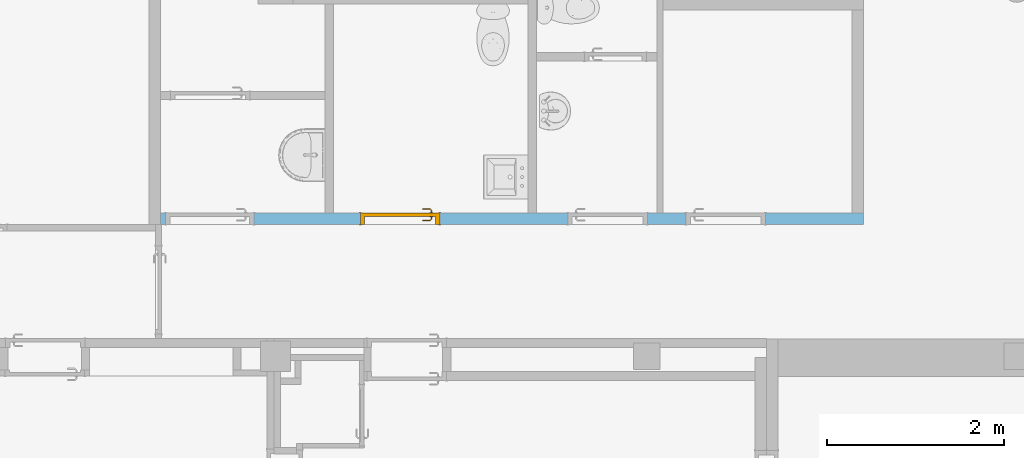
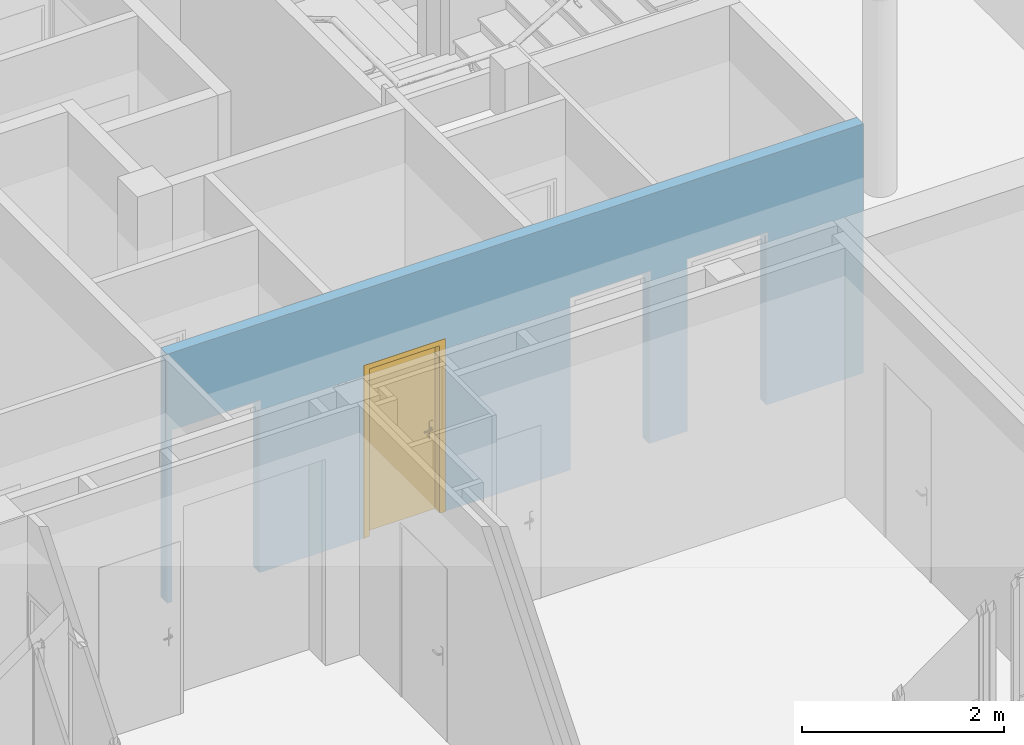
# One storey, part 64 of 97: 1 door, 4 openings, plus 1 element that does not belong to this part.
"""IFC4 building model written with IfcOpenShell, lengths in metres."""

from ifc_helpers import new_model, entity, si_unit, converted_unit, derived_unit, direction, frame, origin, place, context, subcontext, project, spatial, indexed_curve, outline, extrude, polygons, source, transform, mapped, material, material_list, layer, layer_set, constituent, constituent_set, type_object, type_shapes, element, fill, save


model = new_model("IFC4")

# Units and contexts
model_context = context("Model", 3, precision=1e-05, world=origin(), true_north=direction((6.12303176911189e-17, 1.0)))
body_context = subcontext(model_context, "Body", "Model", "MODEL_VIEW")
ifc_project = project(units=[si_unit("LENGTHUNIT", "METRE"), si_unit("AREAUNIT", "SQUARE_METRE"), si_unit("VOLUMEUNIT", "CUBIC_METRE"), converted_unit("PLANEANGLEUNIT", "DEGREE", entity("IfcRatioMeasure", 0.0174532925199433), si_unit("PLANEANGLEUNIT", "RADIAN"), dimensions=[0, 0, 0, 0, 0, 0, 0]), si_unit("MASSUNIT", "GRAM", prefix="KILO"), derived_unit("MASSDENSITYUNIT", [(si_unit("MASSUNIT", "GRAM", prefix="KILO"), 1), (si_unit("LENGTHUNIT", "METRE"), -3)]), derived_unit("MOMENTOFINERTIAUNIT", [(si_unit("LENGTHUNIT", "METRE"), 4)]), si_unit("TIMEUNIT", "SECOND"), si_unit("FREQUENCYUNIT", "HERTZ"), si_unit("THERMODYNAMICTEMPERATUREUNIT", "DEGREE_CELSIUS"), derived_unit("THERMALTRANSMITTANCEUNIT", [(si_unit("MASSUNIT", "GRAM", prefix="KILO"), 1), (si_unit("THERMODYNAMICTEMPERATUREUNIT", "KELVIN"), -1), (si_unit("TIMEUNIT", "SECOND"), -3)]), derived_unit("VOLUMETRICFLOWRATEUNIT", [(si_unit("LENGTHUNIT", "METRE"), 3), (si_unit("TIMEUNIT", "SECOND"), -1)]), si_unit("ELECTRICCURRENTUNIT", "AMPERE"), si_unit("ELECTRICVOLTAGEUNIT", "VOLT"), si_unit("POWERUNIT", "WATT"), si_unit("FORCEUNIT", "NEWTON", prefix="KILO"), si_unit("ILLUMINANCEUNIT", "LUX"), si_unit("LUMINOUSFLUXUNIT", "LUMEN"), si_unit("LUMINOUSINTENSITYUNIT", "CANDELA"), derived_unit("USERDEFINED", [(si_unit("MASSUNIT", "GRAM", prefix="KILO"), -1), (si_unit("LENGTHUNIT", "METRE"), -2), (si_unit("TIMEUNIT", "SECOND"), 3), (si_unit("LUMINOUSFLUXUNIT", "LUMEN"), 1)]), derived_unit("LINEARVELOCITYUNIT", [(si_unit("LENGTHUNIT", "METRE"), 1), (si_unit("TIMEUNIT", "SECOND"), -1)]), si_unit("PRESSUREUNIT", "PASCAL"), derived_unit("USERDEFINED", [(si_unit("LENGTHUNIT", "METRE"), -2), (si_unit("MASSUNIT", "GRAM", prefix="KILO"), 1), (si_unit("TIMEUNIT", "SECOND"), -2)]), derived_unit("LINEARFORCEUNIT", [(si_unit("MASSUNIT", "GRAM", prefix="KILO"), 1), (si_unit("LENGTHUNIT", "METRE"), 1), (si_unit("TIMEUNIT", "SECOND"), -2), (si_unit("LENGTHUNIT", "METRE"), -1)]), derived_unit("PLANARFORCEUNIT", [(si_unit("MASSUNIT", "GRAM", prefix="KILO"), 1), (si_unit("LENGTHUNIT", "METRE"), 1), (si_unit("TIMEUNIT", "SECOND"), -2), (si_unit("LENGTHUNIT", "METRE"), -2)])], contexts=[model_context])

# Site, building, storey
site_placement = place(None, origin())
site = spatial("IfcSite", under=ifc_project, at=site_placement, Name="Default", CompositionType="ELEMENT")
building_placement = place(site_placement, origin())
building = spatial("IfcBuilding", under=site, at=building_placement, Name="HOTEL CONSULAIRE BOULOGNE SUR MER", CompositionType="ELEMENT")
storey_placement = place(building_placement, frame((0.0, 0.0, 3.62152697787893)))
storey = spatial("IfcBuildingStorey", under=building, at=storey_placement, Name="Niveau 1", CompositionType="ELEMENT", Elevation=3.62152697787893)

# Wall, openings, door
ifc_material_1 = material(Name="Mur par défaut", Category="Divers")
ifc_layer = layer(ifc_material_1, 0.13, Name="Mur par défaut", Category="Divers")
ifc_layer_set = layer_set([ifc_layer], Name="Mur de base:Générique - Int. 130 mm")
wall_type = type_object("IfcWallType", Name="Mur de base:Générique - Int. 130 mm", PredefinedType="NOTDEFINED", material=ifc_layer_set)
wall_placement = place(storey_placement, frame((5.42705530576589, -22.4600276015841, 0.0), z_axis=(0.0, 0.0, 1.0), x_axis=(-1.0, 0.0, 0.0)))
wall = element("IfcWall", 1, at=wall_placement, inside=storey, type_object=wall_type, material=ifc_layer_set, Name="Mur de base:Générique - Int. 130 mm", ObjectType="Mur de base:Générique - Int. 130 mm", PredefinedType="NOTDEFINED", context=body_context, shape_type="Tessellation", body=[
    polygons([(7.95758399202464, -0.0650000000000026, 0.0), (7.90058399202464, -0.0649999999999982, 0.0), (7.90058399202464, 0.0649999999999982, 0.0), (7.94618813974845, 0.0649999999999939, 0.0), (7.95758399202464, 0.0649999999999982, 0.0), (6.90058399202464, -0.0650000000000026, 0.0), (6.09803531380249, -0.0650000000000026, 0.0), (5.99803531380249, -0.0650000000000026, 0.0), (5.69603531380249, -0.0650000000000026, 0.0), (5.69603531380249, 0.0649999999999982, 0.0), (6.90058399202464, 0.0649999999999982, 0.0), (4.79603531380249, -0.0650000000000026, 0.0), (3.79958399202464, -0.0650000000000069, 0.0), (3.69958399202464, -0.0650000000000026, 0.0), (3.34724170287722, -0.0649999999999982, 0.0), (3.34724170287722, 0.0649999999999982, 0.0), (4.79603531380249, 0.0650000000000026, 0.0), (2.44724170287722, -0.0650000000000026, 0.0), (2.33924170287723, -0.0650000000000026, 0.0), (2.26924170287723, -0.0650000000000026, 0.0), (2.00824170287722, -0.0649999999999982, 0.0), (2.00824170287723, 0.0649999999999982, 0.0), (2.44724170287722, 0.0649999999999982, 0.0), (7.95758399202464, -0.0649999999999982, 3.01021454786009), (6.09803531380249, -0.0650000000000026, 3.01021454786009), (5.99803531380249, -0.0650000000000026, 3.01021454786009), (3.79958399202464, -0.0650000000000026, 3.01021454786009), (3.69958399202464, -0.0649999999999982, 3.01021454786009), (2.33924170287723, -0.0650000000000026, 3.01021454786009), (2.26924170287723, -0.0649999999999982, 3.01021454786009), (0.130000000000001, -0.0650000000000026, 3.01021454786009), (-2.38412309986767e-16, -0.0650000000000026, 3.01021454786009), (-2.38412309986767e-16, -0.0650000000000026, 0.0), (0.129999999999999, -0.0650000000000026, 0.0), (1.10824170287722, -0.0650000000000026, 0.0), (1.10824170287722, -0.0650000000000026, 2.075), (2.00824170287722, -0.0649999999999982, 2.075), (2.44724170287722, -0.0650000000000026, 2.075), (3.34724170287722, -0.0649999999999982, 2.075), (4.79603531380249, -0.0649999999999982, 2.075), (5.69603531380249, -0.0650000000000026, 2.075), (6.90058399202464, -0.0650000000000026, 2.075), (7.90058399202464, -0.0649999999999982, 2.075), (-6.35807461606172e-16, 0.0649999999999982, 3.01021454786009), (7.94618813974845, 0.0650000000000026, 3.01021454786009), (7.95758399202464, 0.0650000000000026, 3.01021454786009), (7.90058399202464, 0.0650000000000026, 2.075), (6.90058399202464, 0.0649999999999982, 2.075), (5.69603531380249, 0.0649999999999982, 2.075), (4.79603531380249, 0.0650000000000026, 2.075), (3.34724170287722, 0.0650000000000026, 2.075), (2.44724170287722, 0.0649999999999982, 2.075), (2.00824170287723, 0.0650000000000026, 2.075), (1.10824170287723, 0.0649999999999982, 2.075), (1.10824170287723, 0.0649999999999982, 0.0), (-6.35807461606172e-16, 0.0649999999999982, 0.0)], [[[1, 2, 3, 4, 5]], [[7, 8, 9, 10, 11, 6]], [[13, 14, 15, 16, 17, 12]], [[20, 21, 22, 23, 18, 19]], [[39, 38, 52, 51]], [[37, 36, 54, 53]], [[50, 49, 41, 40]], [[48, 47, 43, 42]], [[34, 33, 56, 55, 35]], [[34, 35, 36, 37, 21, 20, 19, 18, 38, 39, 15, 14, 13, 12, 40, 41, 9, 8, 7, 6, 42, 43, 2, 1, 24, 25, 26, 27, 28, 29, 30, 31, 32, 33]], [[47, 48, 11, 10, 49, 50, 17, 16, 51, 52, 23, 22, 53, 54, 55, 56, 44, 45, 46, 5, 4, 3]], [[25, 24, 46, 45, 44, 32, 31, 30, 29, 28, 27, 26]], [[44, 56, 33, 32]], [[15, 39, 51, 16]], [[21, 37, 53, 22]], [[49, 10, 9, 41]], [[47, 3, 2, 43]], [[1, 5, 46, 24]], [[38, 18, 23, 52]], [[36, 35, 55, 54]], [[17, 50, 40, 12]], [[11, 48, 42, 6]]], closed=True),
])
opening_1_placement = place(wall_placement, frame((3.34724170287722, 0.0649999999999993, 0.0)))
element("IfcOpeningElement", 2, at=opening_1_placement, cuts=wall, Name="Int. Simple:PP (0.83m x 2.04m):1", ObjectType="Opening", PredefinedType="OPENING", context=body_context, shape_type="SweptSolid", body=[
    extrude(outline(indexed_curve([(0.0, 0.9), (0.0, 0.0), (2.075, 0.0), (2.075, 0.9), (0.0, 0.9)], self_intersect=False)), frame((0.0, 0.0, 0.0), z_axis=(0.0, -1.0, 0.0), x_axis=(0.0, 0.0, 1.0)), (0.0, 0.0, 1.0), 0.13),
])
opening_2_placement = place(wall_placement, frame((2.00824170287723, 0.0649999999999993, 0.0)))
element("IfcOpeningElement", 3, at=opening_2_placement, cuts=wall, Name="Int. Simple:PP (0.83m x 2.04m):1", ObjectType="Opening", PredefinedType="OPENING", context=body_context, shape_type="SweptSolid", body=[
    extrude(outline(indexed_curve([(0.0, 0.9), (0.0, 0.0), (2.075, 0.0), (2.075, 0.9), (0.0, 0.9)], self_intersect=False)), frame((0.0, 0.0, 0.0), z_axis=(0.0, -1.0, 0.0), x_axis=(0.0, 0.0, 1.0)), (0.0, 0.0, 1.0), 0.13),
])
opening_3_placement = place(wall_placement, frame((5.69603531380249, 0.0650000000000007, 0.0)))
opening_3 = element("IfcOpeningElement", 4, at=opening_3_placement, cuts=wall, Name="Int. Simple:PP (0.83m x 2.04m):1", ObjectType="Opening", PredefinedType="OPENING", context=body_context, shape_type="SweptSolid", body=[
    extrude(outline(indexed_curve([(0.0, 0.0), (2.075, 0.0), (2.075, 0.9), (0.0, 0.9), (0.0, 0.0)], self_intersect=False)), frame((0.0, 0.0, 0.0), z_axis=(0.0, -1.0, 0.0), x_axis=(0.0, 0.0, 1.0)), (0.0, 0.0, 1.0), 0.13),
])
opening_4_placement = place(wall_placement, frame((7.90058399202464, 0.0650000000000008, 0.0)))
element("IfcOpeningElement", 5, at=opening_4_placement, cuts=wall, Name="Int. Simple:PP0.93x2.04:1", ObjectType="Opening", PredefinedType="OPENING", context=body_context, shape_type="SweptSolid", body=[
    extrude(outline(indexed_curve([(0.0, 0.0), (2.075, 0.0), (2.075, 1.0), (0.0, 1.0), (0.0, 0.0)], self_intersect=False)), frame((0.0, 0.0, 0.0), z_axis=(0.0, -1.0, 0.0), x_axis=(0.0, 0.0, 1.0)), (0.0, 0.0, 1.0), 0.13),
])
ifc_material_2 = material(Name="Finition Peinture - Blanc satiné", Category="Peinture")
ifc_constituent_1 = constituent(ifc_material_2, Name="Finition Peinture - Blanc satiné", Category="Matériaux")
ifc_material_3 = material(Name="Bois - Panneau de porte", Category="Bois")
ifc_constituent_2 = constituent(ifc_material_3, Name="Bois - Panneau de porte", Category="Matériaux")
ifc_material_4 = material(Name="Bois - Cadre de porte", Category="Bois")
ifc_constituent_3 = constituent(ifc_material_4, Name="Bois - Cadre de porte", Category="Matériaux")
ifc_constituent_set = constituent_set(constituents=[ifc_constituent_1, ifc_constituent_2, ifc_constituent_3], Name="MaterialConstituentSet")
ifc_material_list = material_list([ifc_material_4, ifc_material_4, ifc_material_3, ifc_material_2])
door_type = type_object("IfcDoorType", Name="Int. Simple:PP (0.83m x 2.04m)", OperationType="NOTDEFINED", PredefinedType="DOOR", material=ifc_material_list)
shared_shape = source(origin(), body_context, "Body", "Tessellation", [
    polygons([(0.0750000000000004, -0.00500000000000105, 0.870000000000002), (0.0846472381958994, -0.00500000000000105, 0.866003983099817), (0.0950000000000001, -0.00500000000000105, 0.86464101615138), (0.105352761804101, -0.00500000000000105, 0.866003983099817), (0.115, -0.00500000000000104, 0.870000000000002), (0.114999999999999, -0.00500000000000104, 1.08), (0.1053527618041, -0.00500000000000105, 1.08399601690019), (0.094999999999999, -0.00500000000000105, 1.08535898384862), (0.0846472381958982, -0.00500000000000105, 1.08399601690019), (0.0749999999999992, -0.00500000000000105, 1.08), (0.0749999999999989, -1.05748743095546e-15, 0.870000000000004), (0.0749999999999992, -1.05748743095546e-15, 1.08), (0.0846472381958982, -1.05748743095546e-15, 1.08399601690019), (0.094999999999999, -1.04902753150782e-15, 1.08535898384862), (0.1053527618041, -1.04902753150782e-15, 1.08399601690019), (0.114999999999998, -1.04056763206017e-15, 1.08), (0.115, -1.04056763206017e-15, 0.870000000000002), (0.105352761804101, -1.04902753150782e-15, 0.866003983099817), (0.0950000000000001, -1.04902753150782e-15, 0.86464101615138), (0.0846472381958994, -1.05748743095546e-15, 0.866003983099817)], [[[4, 5, 6, 7, 8, 9, 10, 1, 2, 3]], [[15, 16, 17, 18, 19, 20, 11, 12, 13, 14]], [[11, 20, 2, 1]], [[2, 20, 19, 3]], [[19, 18, 4, 3]], [[18, 17, 5, 4]], [[6, 5, 17, 16]], [[16, 15, 7, 6]], [[7, 15, 14, 8]], [[14, 13, 9, 8]], [[13, 12, 10, 9]], [[1, 10, 12, 11]]], closed=True),
    polygons([(0.114999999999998, 0.0399999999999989, 1.08), (0.105352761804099, 0.0399999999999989, 1.08399601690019), (0.0949999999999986, 0.0399999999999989, 1.08535898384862), (0.084647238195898, 0.0399999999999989, 1.08399601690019), (0.0749999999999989, 0.0399999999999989, 1.08), (0.0750000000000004, 0.0399999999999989, 0.870000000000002), (0.0846472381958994, 0.0399999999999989, 0.866003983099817), (0.0950000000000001, 0.0399999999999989, 0.86464101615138), (0.105352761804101, 0.0399999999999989, 0.866003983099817), (0.115, 0.0399999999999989, 0.870000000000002), (0.114999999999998, 0.0449999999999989, 1.08), (0.115, 0.0449999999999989, 0.870000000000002), (0.105352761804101, 0.0449999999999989, 0.866003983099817), (0.0950000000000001, 0.0449999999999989, 0.86464101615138), (0.0846472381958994, 0.0449999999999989, 0.866003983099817), (0.0749999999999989, 0.0449999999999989, 0.870000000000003), (0.0749999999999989, 0.0449999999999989, 1.08), (0.084647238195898, 0.0449999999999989, 1.08399601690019), (0.0949999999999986, 0.0449999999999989, 1.08535898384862), (0.105352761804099, 0.0449999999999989, 1.08399601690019)], [[[9, 10, 1, 2, 3, 4, 5, 6, 7, 8]], [[20, 11, 12, 13, 14, 15, 16, 17, 18, 19]], [[11, 20, 2, 1]], [[2, 20, 19, 3]], [[19, 18, 4, 3]], [[18, 17, 5, 4]], [[6, 5, 17, 16]], [[16, 15, 7, 6]], [[7, 15, 14, 8]], [[14, 13, 9, 8]], [[13, 12, 10, 9]], [[1, 10, 12, 11]]], closed=True),
    polygons([(0.0889999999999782, -0.00500000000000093, 1.007), (0.0929747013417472, -0.00500000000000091, 1.00778044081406), (0.0970252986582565, -0.00500000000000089, 1.00778044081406), (0.101000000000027, -0.00500000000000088, 1.00699999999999), (0.101000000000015, -0.00500000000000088, 0.993000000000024), (0.0970252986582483, -0.00500000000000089, 0.992219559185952), (0.0929747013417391, -0.00500000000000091, 0.99221955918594), (0.0889999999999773, -0.00500000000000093, 0.992999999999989), (0.0889999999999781, -0.0326509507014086, 1.007), (0.092974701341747, -0.0310045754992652, 1.00778044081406), (0.0970252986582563, -0.0293267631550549, 1.00778044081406), (0.101000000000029, -0.0276803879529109, 1.007), (0.101000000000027, -0.0276803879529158, 0.993000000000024), (0.0970252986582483, -0.0293267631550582, 0.992219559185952), (0.0929747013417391, -0.0310045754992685, 0.99221955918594), (0.0889999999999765, -0.0326509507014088, 0.992999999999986), (0.107377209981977, -0.0510281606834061, 1.007), (0.10902358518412, -0.0470534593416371, 1.00778044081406), (0.110701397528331, -0.0430028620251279, 1.00778044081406), (0.112347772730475, -0.0390281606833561, 1.007), (0.112347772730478, -0.0390281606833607, 0.993000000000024), (0.110701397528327, -0.0430028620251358, 0.992219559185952), (0.109023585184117, -0.0470534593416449, 0.99221955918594), (0.107377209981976, -0.0510281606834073, 0.992999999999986), (0.195018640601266, -0.0510281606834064, 1.00699999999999), (0.195018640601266, -0.051028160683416, 0.992999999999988), (0.195018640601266, -0.0470534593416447, 0.99221955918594), (0.195018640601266, -0.0430028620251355, 0.992219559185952), (0.195018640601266, -0.0390281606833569, 0.993000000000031), (0.195018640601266, -0.0390281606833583, 1.007), (0.195018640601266, -0.0430028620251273, 1.00778044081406), (0.195018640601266, -0.0470534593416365, 1.00778044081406), (0.147307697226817, -0.0510281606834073, 1.007), (0.152860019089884, -0.045028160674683, 1.0078786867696), (0.15368320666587, -0.039028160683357, 1.007), (0.147307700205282, -0.0510281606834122, 0.992999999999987), (0.152860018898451, -0.0450281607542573, 0.992121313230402), (0.153683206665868, -0.0390281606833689, 0.993000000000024)], [[[2, 3, 4, 5, 6, 7, 8, 1]], [[21, 20, 35, 30, 29, 38]], [[9, 10, 2, 1]], [[10, 18, 19, 11, 3, 2]], [[11, 12, 4, 3]], [[5, 4, 12, 13]], [[26, 27, 28, 29, 30, 31, 32, 25]], [[13, 14, 6, 5]], [[14, 22, 23, 15, 7, 6]], [[15, 16, 8, 7]], [[1, 8, 16, 9]], [[17, 18, 10, 9]], [[19, 20, 12, 11]], [[13, 12, 20, 21]], [[21, 22, 14, 13]], [[23, 24, 16, 15]], [[9, 16, 24, 17]], [[33, 32, 34]], [[25, 32, 33]], [[18, 17, 33]], [[34, 35, 19]], [[20, 19, 35]], [[35, 31, 30]], [[32, 31, 34]], [[31, 35, 34]], [[18, 33, 34]], [[18, 34, 19]], [[38, 28, 37]], [[36, 37, 27]], [[21, 38, 22]], [[38, 29, 28]], [[26, 36, 27]], [[24, 23, 36]], [[36, 23, 37]], [[23, 22, 37]], [[22, 38, 37]], [[27, 37, 28]], [[17, 24, 36, 26, 25, 33]]], closed=True),
    polygons([(0.10100000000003, 0.0449999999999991, 0.993000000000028), (0.101000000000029, 0.0449999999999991, 1.007), (0.0970252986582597, 0.0449999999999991, 1.00778044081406), (0.0929747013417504, 0.0449999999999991, 1.00778044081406), (0.0889999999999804, 0.0449999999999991, 1.007), (0.0889999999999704, 0.0449999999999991, 0.992999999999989), (0.0929747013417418, 0.0449999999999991, 0.99221955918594), (0.0970252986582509, 0.0449999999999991, 0.992219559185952), (0.10100000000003, 0.067485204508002, 0.993000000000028), (0.10100000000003, 0.0674852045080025, 1.007), (0.0970252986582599, 0.0691315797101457, 1.00778044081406), (0.0929747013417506, 0.070809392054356, 1.00778044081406), (0.0889999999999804, 0.0724557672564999, 1.007), (0.0889999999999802, 0.072455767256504, 0.992999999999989), (0.0929747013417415, 0.0708093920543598, 0.99221955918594), (0.0970252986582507, 0.0691315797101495, 0.992219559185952), (0.112485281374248, 0.0789704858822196, 0.993000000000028), (0.112485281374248, 0.0789704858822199, 1.007), (0.110838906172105, 0.0829451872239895, 1.00778044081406), (0.109161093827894, 0.0869957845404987, 1.00778044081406), (0.107514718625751, 0.090970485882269, 1.007), (0.107514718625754, 0.090970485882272, 0.992999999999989), (0.109161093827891, 0.0869957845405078, 0.99221955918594), (0.110838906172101, 0.0829451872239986, 0.992219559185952), (0.195045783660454, 0.0789704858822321, 0.993000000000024), (0.195045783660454, 0.0829451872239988, 0.992219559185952), (0.195045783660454, 0.086995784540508, 0.99221955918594), (0.195045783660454, 0.0909704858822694, 0.992999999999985), (0.195045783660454, 0.0909704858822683, 1.007), (0.195045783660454, 0.0869957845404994, 1.00778044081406), (0.195045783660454, 0.0829451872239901, 1.00778044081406), (0.195045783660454, 0.0789704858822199, 1.007), (0.147445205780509, 0.0909704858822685, 1.007), (0.152942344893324, 0.0849704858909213, 1.0078786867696), (0.153765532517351, 0.0789704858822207, 1.007), (0.147445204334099, 0.0909704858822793, 0.992999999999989), (0.152942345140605, 0.0849704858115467, 0.992121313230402), (0.153765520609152, 0.0789704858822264, 0.993000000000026)], [[[4, 5, 6, 7, 8, 1, 2, 3]], [[18, 17, 38, 25, 32, 35]], [[2, 1, 9, 10]], [[25, 26, 27, 28, 29, 30, 31, 32]], [[10, 11, 3, 2]], [[11, 19, 20, 12, 4, 3]], [[12, 13, 5, 4]], [[6, 5, 13, 14]], [[14, 15, 7, 6]], [[15, 23, 24, 16, 8, 7]], [[16, 9, 1, 8]], [[10, 9, 17, 18]], [[18, 19, 11, 10]], [[20, 21, 13, 12]], [[14, 13, 21, 22]], [[22, 23, 15, 14]], [[24, 17, 9, 16]], [[35, 31, 34]], [[33, 34, 30]], [[18, 35, 19]], [[35, 32, 31]], [[29, 33, 30]], [[21, 20, 33]], [[33, 20, 34]], [[20, 19, 34]], [[19, 35, 34]], [[30, 34, 31]], [[21, 33, 29, 28, 36, 22]], [[36, 27, 37]], [[28, 27, 36]], [[23, 22, 36]], [[37, 38, 24]], [[17, 24, 38]], [[38, 26, 25]], [[27, 26, 37]], [[26, 38, 37]], [[23, 36, 37]], [[23, 37, 24]]], closed=True),
    polygons([(0.034999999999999, 0.04, 2.04), (0.865, 0.04, 2.04), (0.864999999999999, 0.04, 0.0), (0.034999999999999, 0.04, 0.0), (0.034999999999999, 4.22994972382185e-17, 2.04), (0.034999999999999, 4.22994972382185e-17, 0.0), (0.864999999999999, 4.22994972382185e-17, 0.0), (0.865, 4.22994972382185e-17, 2.04)], [[[4, 1, 2, 3]], [[7, 8, 5, 6]], [[2, 1, 5, 8]], [[3, 2, 8, 7]], [[4, 3, 7, 6]], [[1, 4, 6, 5]]], closed=True),
    polygons([(-1.54308565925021e-14, 1.69197988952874e-17, 0.0), (-1.54308565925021e-14, 0.130000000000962, 0.0), (0.0499999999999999, 0.130000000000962, 0.0), (0.0499999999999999, 0.0400000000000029, 0.0), (0.0349999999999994, 0.0400000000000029, 0.0), (0.0349999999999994, 1.69197988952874e-17, 0.0), (-1.53631773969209e-14, 1.69197988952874e-17, 2.07500000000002), (-1.53631773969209e-14, 0.130000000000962, 2.07500000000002), (0.900000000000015, 0.130000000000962, 2.07500000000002), (0.900000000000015, 0.130000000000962, 9.23443718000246e-25), (0.85, 0.130000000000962, 6.02669015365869e-24), (0.85, 0.130000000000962, 2.025), (0.05, 0.130000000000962, 2.025), (0.05, 0.0400000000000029, 2.025), (0.85, 0.0400000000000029, 2.025), (0.85, 0.0400000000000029, 1.99209609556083e-25), (0.865, 0.0400000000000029, 1.51399294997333e-24), (0.865000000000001, 0.0400000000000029, 2.04), (0.0349999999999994, 0.0400000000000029, 2.04), (0.0349999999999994, 1.69197988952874e-17, 2.04), (0.865, 1.69197988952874e-17, 2.04), (0.865, 1.69197988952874e-17, 3.40121094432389e-24), (0.900000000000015, 1.69197988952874e-17, 1.81925185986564e-24), (0.900000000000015, 1.69197988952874e-17, 2.07500000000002)], [[[5, 6, 1, 2, 3, 4]], [[11, 10, 23, 22, 17, 16]], [[14, 13, 12, 15]], [[20, 19, 18, 21]], [[2, 1, 7, 8]], [[15, 12, 11, 16]], [[21, 18, 17, 22]], [[3, 2, 8, 9, 10, 11, 12, 13]], [[4, 3, 13, 14]], [[6, 5, 19, 20]], [[9, 24, 23, 10]], [[16, 17, 18, 19, 5, 4, 14, 15]], [[22, 23, 24, 7, 1, 6, 20, 21]], [[8, 7, 24, 9]]], closed=True),
    polygons([(0.0149999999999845, 0.130000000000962, 1.35358391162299e-16), (-0.0150000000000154, 0.130000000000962, 1.35358391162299e-16), (-0.0150000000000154, 0.135000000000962, 1.35358391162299e-16), (0.0149999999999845, 0.135000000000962, 1.35358391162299e-16), (0.0149999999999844, 0.130000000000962, 2.06000000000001), (0.884999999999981, 0.130000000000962, 2.06000000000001), (0.88499999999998, 0.130000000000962, 5.09144897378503e-24), (0.91499999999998, 0.130000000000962, -5.44393448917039e-24), (0.91499999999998, 0.130000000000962, 2.09000000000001), (-0.0150000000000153, 0.130000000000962, 2.09000000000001), (-0.0150000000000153, 0.135000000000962, 2.09000000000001), (0.91499999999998, 0.135000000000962, 2.09000000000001), (0.91499999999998, 0.135000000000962, 5.03766794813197e-24), (0.88499999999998, 0.135000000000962, -1.89153776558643e-24), (0.88499999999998, 0.135000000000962, 2.06000000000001), (0.0149999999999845, 0.135000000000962, 2.06000000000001)], [[[1, 2, 3, 4]], [[14, 13, 8, 7]], [[5, 16, 15, 6]], [[7, 8, 9, 10, 2, 1, 5, 6]], [[3, 2, 10, 11]], [[6, 15, 14, 7]], [[4, 3, 11, 12, 13, 14, 15, 16]], [[1, 4, 16, 5]], [[12, 9, 8, 13]], [[11, 10, 9, 12]]], closed=True),
    polygons([(0.0149999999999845, -0.005, 1.35358391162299e-16), (-0.0150000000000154, -0.005, 1.35358391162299e-16), (-0.0150000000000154, 1.69197988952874e-17, 1.35358391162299e-16), (0.0149999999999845, 1.69197988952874e-17, 1.35358391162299e-16), (0.88499999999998, -0.005, -1.35358391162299e-16), (0.88499999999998, 1.69197988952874e-17, -1.35358391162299e-16), (0.91499999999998, 1.69197988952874e-17, -1.35358391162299e-16), (0.91499999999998, -0.005, -1.35358391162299e-16), (0.0149999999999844, -0.005, 2.06000000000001), (0.884999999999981, -0.005, 2.06000000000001), (0.91499999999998, -0.005, 2.09000000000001), (-0.0150000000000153, -0.005, 2.09000000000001), (-0.0150000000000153, 1.69197988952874e-17, 2.09000000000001), (0.91499999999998, 1.69197988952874e-17, 2.09000000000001), (0.88499999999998, 1.69197988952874e-17, 2.06000000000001), (0.0149999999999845, 1.69197988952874e-17, 2.06000000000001)], [[[1, 2, 3, 4]], [[6, 7, 8, 5]], [[9, 16, 15, 10]], [[5, 8, 11, 12, 2, 1, 9, 10]], [[3, 2, 12, 13]], [[10, 15, 6, 5]], [[4, 3, 13, 14, 7, 6, 15, 16]], [[1, 4, 16, 9]], [[14, 11, 8, 7]], [[13, 12, 11, 14]]], closed=True),
])
type_shapes(door_type, [shared_shape])
door_placement = place(opening_3_placement, frame((-0.899999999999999, -0.130000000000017, 0.0)))
door = element("IfcDoor", 6, at=door_placement, inside=storey, type_object=door_type, material=ifc_constituent_set, Name="Int. Simple:PP (0.83m x 2.04m)", ObjectType="Int. Simple:PP (0.83m x 2.04m)", OperationType="NOTDEFINED", OverallHeight=2.075, OverallWidth=0.9, PredefinedType="DOOR", context=body_context, shape_type="MappedRepresentation", body=[
    mapped(shared_shape, transform((0.0, 0.0, 0.0), scale=1.0)),
])
fill(opening_3, door)

save(model, "model.ifc")
